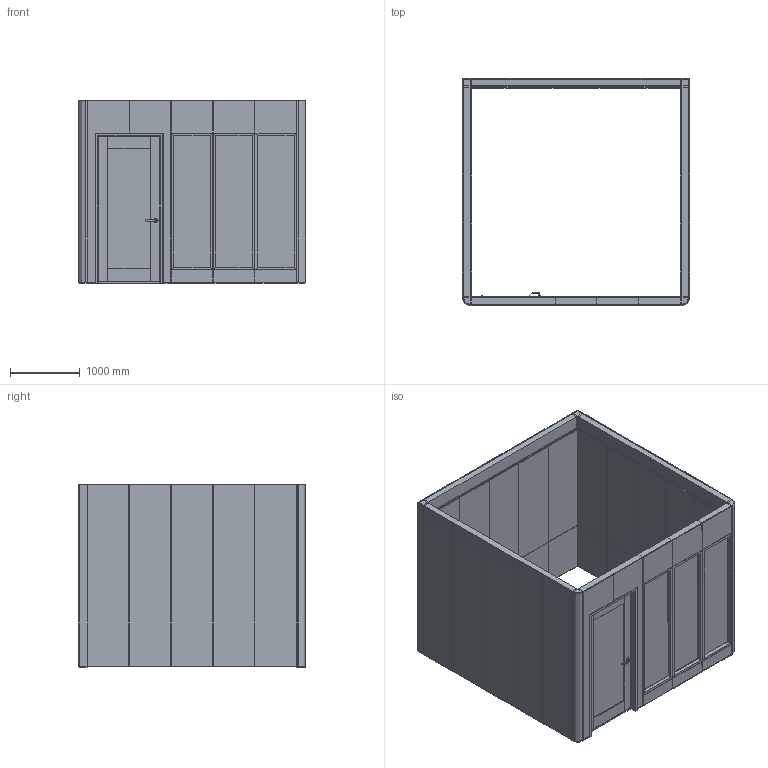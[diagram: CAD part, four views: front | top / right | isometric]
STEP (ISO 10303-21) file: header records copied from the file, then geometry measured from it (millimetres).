
FILE_DESCRIPTION(/* description */ (''),/* implementation_level */ '2;1');
FILE_NAME(/* name */ 'Huddle Three',/* time_stamp */ '2026-06-15T16:32:04+12:00',/* author */ (''),/* organization */ (''),/* preprocessor_version */ 'ST-DEVELOPER v19.2',/* originating_system */ 'Rhino 8.31',/* authorisation */ '');
FILE_SCHEMA (('CONFIG_CONTROL_DESIGN'));
Length unit declared in the file: millimetre
Products named in the file (17): Document; 600x2400mm Internal Linings - MDF; 600x1656mm Internal Linings - Autex; 600x740mm Internal Linings - Autex; 600x2600mm External Lining; 18mm Packer; CornerPost_2600_92; 92x2600mm External Corner Lining; 600x740mm Internal Linings Short - Autex; 600x1656mm Internal Linings Short - Autex; 600x246mm Internal Lining; WindowPanel_600_2600_92_600_1950; 600x2600mm External Door Lining; 600x464mm External Lining; 600x178mm External Lining; 600x178mm Internal Lining; 600x2600mm Internal Door Lining
Bounding box: 3252 x 3254 x 2618 mm (x, y, z)
Volume: 1521122338.1 mm3; surface area: 216248275.5 mm2
Topology: 140 solids, 146 shells, 980 faces, 2126 edges, 1435 vertices
Faces by surface type: plane 950, cylinder 22, bspline 8
Entity records: 16395 total; most frequent: CARTESIAN_POINT 4376, ORIENTED_EDGE 2556, EDGE_CURVE 1306, B_SPLINE_CURVE_WITH_KNOTS 1179, DIRECTION 917, VERTEX_POINT 888, AXIS2_PLACEMENT_3D 748, EDGE_LOOP 598
